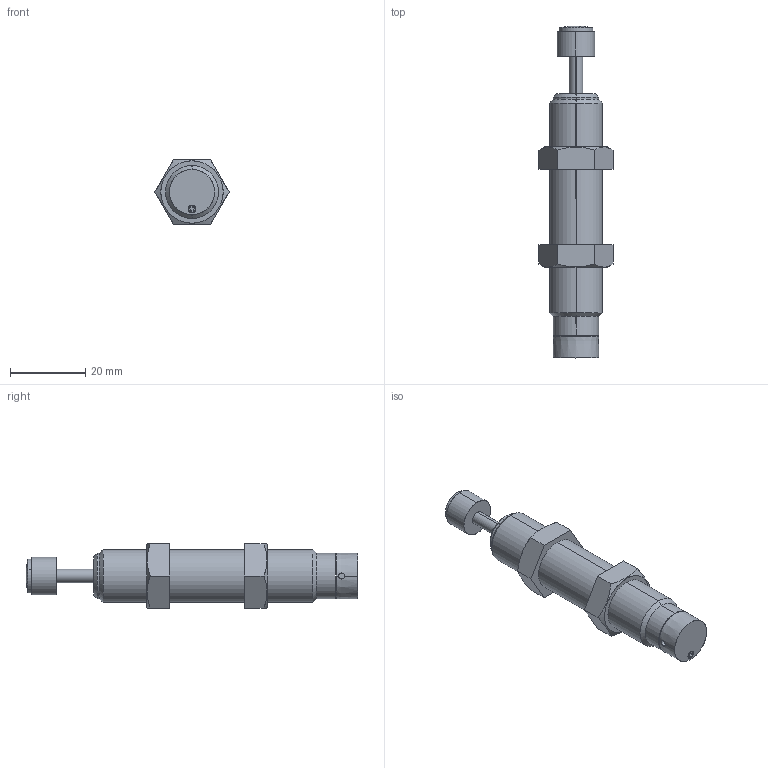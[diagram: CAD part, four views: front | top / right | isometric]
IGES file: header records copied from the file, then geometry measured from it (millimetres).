
Start section: SolidWorks IGES file using analytic representation for surfaces
Bounding box: 19.63 x 88 x 17 mm (x, y, z)
Surface area: 5332.4 mm2 (no closed solid volume)
Topology: 0 solids, 0 shells, 74 faces, 1174 edges, 1173 vertices
Faces by surface type: revolution 38, bspline 36
